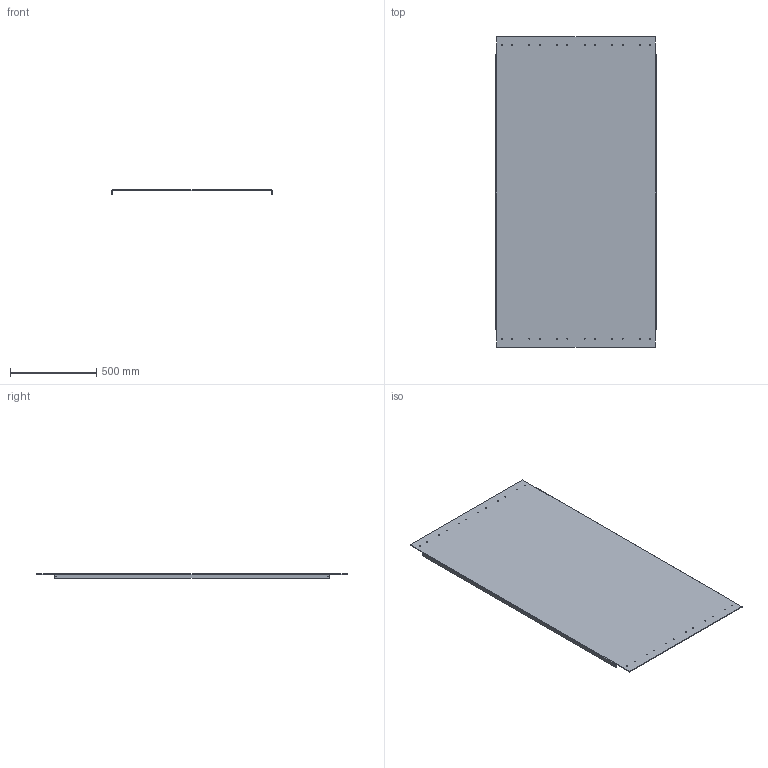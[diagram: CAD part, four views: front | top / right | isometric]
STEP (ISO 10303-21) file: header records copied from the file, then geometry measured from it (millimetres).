
FILE_DESCRIPTION(('HOOPS Exchange Step'),'2;1');
FILE_NAME('/private/var/mobile/Containers/Data/Application/E4481369-A8C6-45C6-A958-B1853E49479D/tmp/export/temp_export','2021-04-12T21:17:38+00:00',('mobile'),('Shapr3D Limited'),'HOOPS Exchange 2020.2','Shapr3D','Authorized');
FILE_SCHEMA( ('AP203_CONFIGURATION_CONTROLLED_3D_DESIGN_OF_MECHANICAL_PARTS_AND_ASSEMBLIES_MIM_LF') );
Length unit declared in the file: millimetre
Products named in the file (2): 0; /private/var/mobile/Containers/Data/Application/E4481369-A8C6-45C6-A958-B1853E49479D/tmp/51474244-550B-4459-92AB-241DC3422C01.tmp
Assembly tree (1 placements, depth 2):
  /private/var/mobile/Containers/Data/Application/E4481369-A8C6-45C6-A958-B1853E49479D/tmp/51474244-550B-4459-92AB-241DC3422C01.tmp
    0
Bounding box: 930 x 1800 x 24 mm (x, y, z)
Volume: 6923615.6 mm3; surface area: 3485763.1 mm2
Topology: 1 solids, 1 shells, 58 faces, 192 edges, 136 vertices
Faces by surface type: cylinder 40, plane 18
Full cylindrical faces by diameter (mm): 5.2 x28
Entity records: 2359 total; most frequent: DIRECTION 426, CARTESIAN_POINT 389, ORIENTED_EDGE 384, EDGE_CURVE 192, AXIS2_PLACEMENT_3D 173, VERTEX_POINT 136, EDGE_LOOP 114, FACE_BOUND 114
